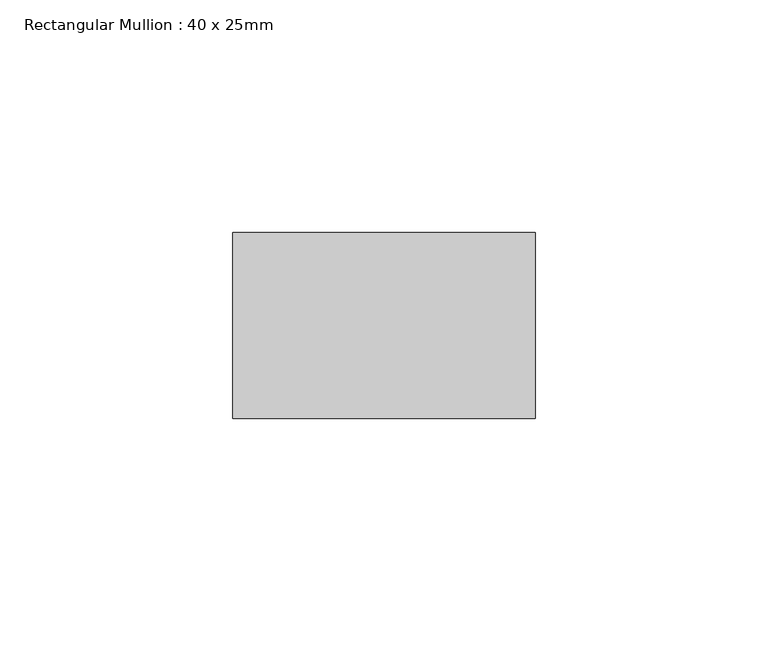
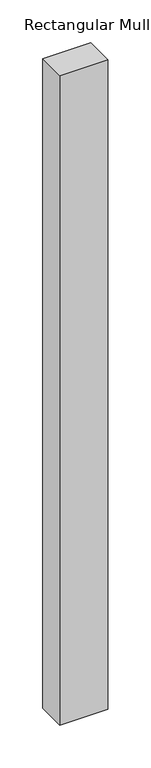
"""IFC4 building model written with IfcOpenShell, lengths in millimetres: member geometry, Rectangular Mullion : 40 x 25mm."""

from ifc_helpers import new_model, si_unit, frame, origin, place, context, project, spatial, polyline, outline, extrude, source, transform, mapped, element, save


def rectangular_mullion_40_x_25mm_a4d65c37(model_context):
    return source(origin(), model_context, "Body", "SweptSolid", [
        extrude(outline(polyline([(40.0, -20.0), (40.0, -60.0), (-25.0, -60.0), (-25.0, -20.0), (40.0, -20.0)])), frame((0.0, 0.0, -928.618704), z_axis=(0.0, 0.0, 1.0), x_axis=(1.0, 0.0, 0.0)), (0.0, 0.0, 1.0), 928.618704),
    ])


if __name__ == "__main__":
    model = new_model("IFC4")
    model_context = context("Model", 3, world=origin())
    ifc_project = project(units=[si_unit("LENGTHUNIT", "METRE", prefix="MILLI")], contexts=[model_context])
    site = spatial("IfcSite", under=ifc_project)
    building = spatial("IfcBuilding", under=site)
    placement = place(None, origin())
    rectangular_mullion_40_x_25mm_shape = rectangular_mullion_40_x_25mm_a4d65c37(model_context)
    element("IfcMember", 1, ObjectType="Rectangular Mullion : 40 x 25mm", at=placement, inside=building, context=model_context, shape_type="MappedRepresentation", body=[
        mapped(rectangular_mullion_40_x_25mm_shape, transform((0.0, 0.0, 0.0), x_axis=(1.0, 0.0, 0.0), y_axis=(0.0, 1.0, 0.0), z_axis=(0.0, 0.0, 1.0))),
    ])
    save(model, "model.ifc")
